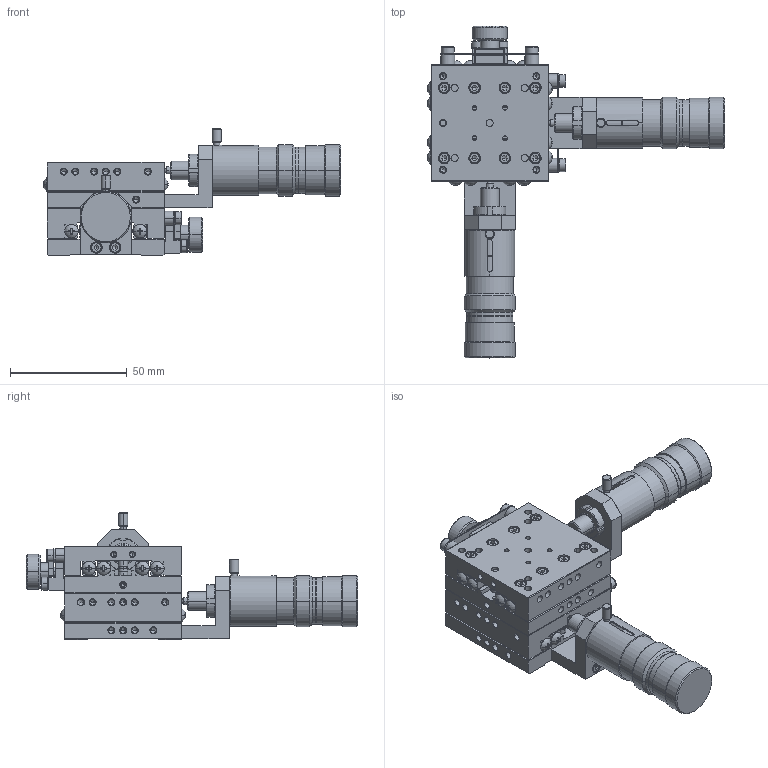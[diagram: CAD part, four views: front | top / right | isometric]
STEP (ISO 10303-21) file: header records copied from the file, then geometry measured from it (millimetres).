
FILE_DESCRIPTION (( 'STEP AP214' ), '1' );
FILE_NAME ('YM05A-C3-CL.STEP', '2007-08-07T01:49:35', ( ' ' ), ( ' ' ), 'SwSTEP 2.0', 'SolidWorks 2006052', '' );
FILE_SCHEMA (( 'AUTOMOTIVE_DESIGN' ));
Products named in the file (10): 001010-1023(3D)-2; XM05A-C3-CL(PL); 001010-1011(3D)-Part-1-2; 001010-1011(3D)-2; 001010-1011(3D)-3; 001010-1011(3D)-Part-2-2; XM05A-C3-CL(PL)-1; YM05A-C3-CL; 001010-1011(3D)-Part-2-3; 001010-1011(3D)-Part-1-3
Assembly tree (9 placements, depth 4):
  YM05A-C3-CL
    XM05A-C3-CL(PL)
      001010-1011(3D)-2
        001010-1011(3D)-Part-2-2
        001010-1011(3D)-Part-1-2
      001010-1023(3D)-2
    XM05A-C3-CL(PL)-1
      001010-1011(3D)-3
        001010-1011(3D)-Part-2-3
        001010-1011(3D)-Part-1-3
Bounding box: 127.18 x 142 x 54.5 mm (x, y, z)
Volume: 136747.9 mm3; surface area: 73251.8 mm2
Topology: 5 solids, 97 shells, 3398 faces, 7796 edges, 4614 vertices
Faces by surface type: plane 1554, cylinder 1022, cone 612, torus 176, sphere 34
Entity records: 95518 total; most frequent: DIRECTION 17504, CARTESIAN_POINT 17420, ORIENTED_EDGE 15168, EDGE_CURVE 7584, AXIS2_PLACEMENT_3D 6774, VERTEX_POINT 4614, VECTOR 3956, LINE 3956
